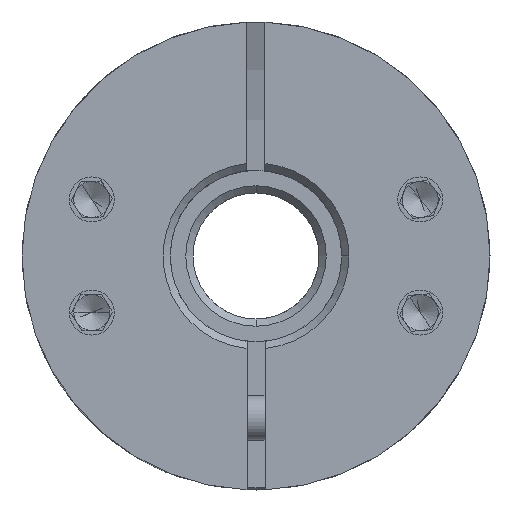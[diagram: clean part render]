
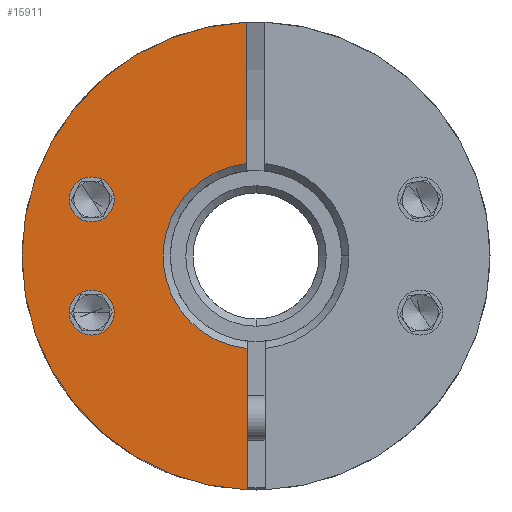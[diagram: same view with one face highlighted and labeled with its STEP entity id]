
A CAD part, front view. The second image highlights one B-rep face of the part: STEP entity #15911.
In plain terms, the highlighted planar face has unit normal (0, -1, 0).
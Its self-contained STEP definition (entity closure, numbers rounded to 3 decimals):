
#75 = EDGE_CURVE ( 'NONE', #4677, #5542, #23073, .T. ) ;
#720 = ORIENTED_EDGE ( 'NONE', *, *, #7056, .T. ) ;
#1134 = ORIENTED_EDGE ( 'NONE', *, *, #16004, .T. ) ;
#1305 = CARTESIAN_POINT ( 'NONE',  ( 1.755, -26.289, 0. ) ) ;
#1398 = DIRECTION ( 'NONE',  ( 0., 1., 0. ) ) ;
#1627 = CARTESIAN_POINT ( 'NONE',  ( -11.245, -26.289, 0. ) ) ;
#1874 = EDGE_CURVE ( 'NONE', #13177, #2538, #3422, .T. ) ;
#2457 = EDGE_CURVE ( 'NONE', #6968, #20381, #5070, .T. ) ;
#2520 = EDGE_CURVE ( 'NONE', #2538, #5542, #13197, .T. ) ;
#2538 = VERTEX_POINT ( 'NONE', #1627 ) ;
#2653 = CIRCLE ( 'NONE', #17725, 1.25 ) ;
#3066 = DIRECTION ( 'NONE',  ( 0., 1., 0. ) ) ;
#3422 = CIRCLE ( 'NONE', #16448, 13. ) ;
#4138 = DIRECTION ( 'NONE',  ( 1., 0., 0. ) ) ;
#4677 = VERTEX_POINT ( 'NONE', #9320 ) ;
#5006 = CARTESIAN_POINT ( 'NONE',  ( -7.369, -26.289, 3.142 ) ) ;
#5070 = CIRCLE ( 'NONE', #11051, 1.25 ) ;
#5237 = ORIENTED_EDGE ( 'NONE', *, *, #7497, .F. ) ;
#5542 = VERTEX_POINT ( 'NONE', #8635 ) ;
#5656 = CARTESIAN_POINT ( 'NONE',  ( 1.255, -26.289, 5.138 ) ) ;
#6642 = ORIENTED_EDGE ( 'NONE', *, *, #2457, .T. ) ;
#6968 = VERTEX_POINT ( 'NONE', #14327 ) ;
#7056 = EDGE_CURVE ( 'NONE', #20381, #6968, #2653, .T. ) ;
#7324 = CARTESIAN_POINT ( 'NONE',  ( -7.369, -26.289, -3.142 ) ) ;
#7352 = DIRECTION ( 'NONE',  ( 0., 0., -1. ) ) ;
#7376 = DIRECTION ( 'NONE',  ( 0., 1., 0. ) ) ;
#7399 = CARTESIAN_POINT ( 'NONE',  ( 1.755, -26.289, 0. ) ) ;
#7412 = ORIENTED_EDGE ( 'NONE', *, *, #75, .F. ) ;
#7460 = ORIENTED_EDGE ( 'NONE', *, *, #2520, .T. ) ;
#7497 = EDGE_CURVE ( 'NONE', #13177, #23053, #12412, .T. ) ;
#7699 = AXIS2_PLACEMENT_3D ( 'NONE', #7399, #12749, #21795 ) ;
#7923 = EDGE_LOOP ( 'NONE', ( #6642, #720 ) ) ;
#8408 = DIRECTION ( 'NONE',  ( 1., 0., 0. ) ) ;
#8635 = CARTESIAN_POINT ( 'NONE',  ( 1.255, -26.289, -12.99 ) ) ;
#8642 = CARTESIAN_POINT ( 'NONE',  ( -6.119, -26.289, -3.142 ) ) ;
#9017 = CARTESIAN_POINT ( 'NONE',  ( -6.119, -26.289, 3.142 ) ) ;
#9320 = CARTESIAN_POINT ( 'NONE',  ( 1.255, -26.289, -5.138 ) ) ;
#9349 = CIRCLE ( 'NONE', #14027, 1.25 ) ;
#9554 = VERTEX_POINT ( 'NONE', #8642 ) ;
#9797 = DIRECTION ( 'NONE',  ( 1., 0., 0. ) ) ;
#10286 = AXIS2_PLACEMENT_3D ( 'NONE', #19148, #17663, #8408 ) ;
#10471 = CARTESIAN_POINT ( 'NONE',  ( -7.369, -26.289, -3.142 ) ) ;
#11051 = AXIS2_PLACEMENT_3D ( 'NONE', #5006, #3066, #20935 ) ;
#11096 = DIRECTION ( 'NONE',  ( 0., 0., -1. ) ) ;
#11815 = CIRCLE ( 'NONE', #21332, 1.25 ) ;
#12412 = LINE ( 'NONE', #12778, #12969 ) ;
#12676 = FACE_OUTER_BOUND ( 'NONE', #17069, .T. ) ;
#12749 = DIRECTION ( 'NONE',  ( 0., -1., 0. ) ) ;
#12778 = CARTESIAN_POINT ( 'NONE',  ( 1.255, -26.289, 5. ) ) ;
#12969 = VECTOR ( 'NONE', #7352, 1000. ) ;
#13177 = VERTEX_POINT ( 'NONE', #22192 ) ;
#13197 = CIRCLE ( 'NONE', #10286, 13. ) ;
#13315 = VECTOR ( 'NONE', #11096, 1000. ) ;
#14027 = AXIS2_PLACEMENT_3D ( 'NONE', #10471, #1398, #21161 ) ;
#14327 = CARTESIAN_POINT ( 'NONE',  ( -8.619, -26.289, 3.142 ) ) ;
#14655 = PLANE ( 'NONE',  #7699 ) ;
#14710 = EDGE_CURVE ( 'NONE', #9554, #16989, #9349, .T. ) ;
#14925 = FACE_BOUND ( 'NONE', #7923, .T. ) ;
#15017 = CARTESIAN_POINT ( 'NONE',  ( 1.255, -26.289, 5. ) ) ;
#15911 = ADVANCED_FACE ( 'NONE', ( #12676, #14925, #16319 ), #14655, .T. ) ;
#16004 = EDGE_CURVE ( 'NONE', #16989, #9554, #11815, .T. ) ;
#16319 = FACE_BOUND ( 'NONE', #21310, .T. ) ;
#16360 = DIRECTION ( 'NONE',  ( 0., 1., 0. ) ) ;
#16448 = AXIS2_PLACEMENT_3D ( 'NONE', #1305, #20597, #21140 ) ;
#16989 = VERTEX_POINT ( 'NONE', #17474 ) ;
#17069 = EDGE_LOOP ( 'NONE', ( #7412, #19104, #5237, #20702, #7460 ) ) ;
#17474 = CARTESIAN_POINT ( 'NONE',  ( -8.619, -26.289, -3.142 ) ) ;
#17663 = DIRECTION ( 'NONE',  ( 0., -1., 0. ) ) ;
#17725 = AXIS2_PLACEMENT_3D ( 'NONE', #18209, #7376, #4138 ) ;
#18209 = CARTESIAN_POINT ( 'NONE',  ( -7.369, -26.289, 3.142 ) ) ;
#19104 = ORIENTED_EDGE ( 'NONE', *, *, #23076, .T. ) ;
#19148 = CARTESIAN_POINT ( 'NONE',  ( 1.755, -26.289, 0. ) ) ;
#19991 = DIRECTION ( 'NONE',  ( 1., 0., 0. ) ) ;
#20118 = CIRCLE ( 'NONE', #22211, 5.162 ) ;
#20262 = DIRECTION ( 'NONE',  ( 0., 1., 0. ) ) ;
#20381 = VERTEX_POINT ( 'NONE', #9017 ) ;
#20597 = DIRECTION ( 'NONE',  ( 0., -1., 0. ) ) ;
#20702 = ORIENTED_EDGE ( 'NONE', *, *, #1874, .T. ) ;
#20935 = DIRECTION ( 'NONE',  ( 1., 0., 0. ) ) ;
#21140 = DIRECTION ( 'NONE',  ( 1., 0., 0. ) ) ;
#21161 = DIRECTION ( 'NONE',  ( 1., 0., 0. ) ) ;
#21310 = EDGE_LOOP ( 'NONE', ( #1134, #21346 ) ) ;
#21332 = AXIS2_PLACEMENT_3D ( 'NONE', #7324, #16360, #19991 ) ;
#21346 = ORIENTED_EDGE ( 'NONE', *, *, #14710, .T. ) ;
#21795 = DIRECTION ( 'NONE',  ( 1., 0., 0. ) ) ;
#22055 = CARTESIAN_POINT ( 'NONE',  ( 1.755, -26.289, 0. ) ) ;
#22192 = CARTESIAN_POINT ( 'NONE',  ( 1.255, -26.289, 12.99 ) ) ;
#22211 = AXIS2_PLACEMENT_3D ( 'NONE', #22055, #20262, #9797 ) ;
#23053 = VERTEX_POINT ( 'NONE', #5656 ) ;
#23073 = LINE ( 'NONE', #15017, #13315 ) ;
#23076 = EDGE_CURVE ( 'NONE', #4677, #23053, #20118, .T. ) ;
